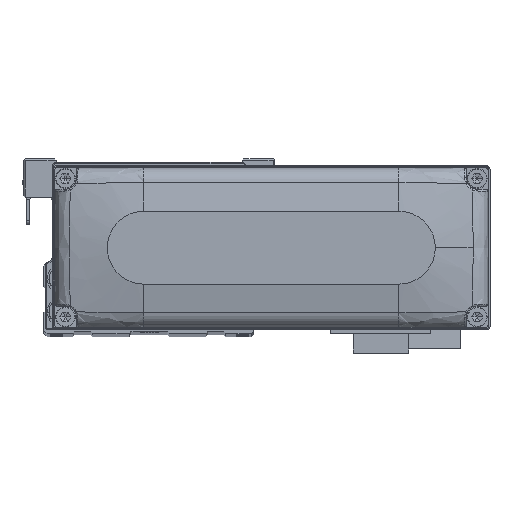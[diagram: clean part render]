
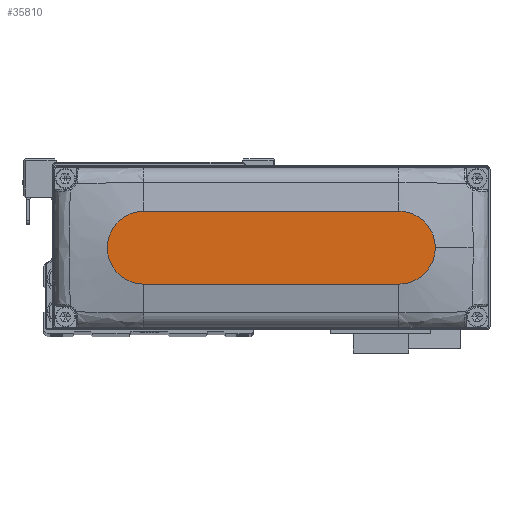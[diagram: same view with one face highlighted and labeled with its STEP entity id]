
A CAD part, top view. The second image highlights one B-rep face of the part: STEP entity #35810.
In plain terms, the highlighted planar face has unit normal (0, 0, 1).
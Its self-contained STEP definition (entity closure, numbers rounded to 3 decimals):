
#755 = CARTESIAN_POINT ( 'NONE',  ( -35., 10., 28. ) ) ;
#1442 = DIRECTION ( 'NONE',  ( 0., 0., 1. ) ) ;
#1767 = DIRECTION ( 'NONE',  ( 1., 0., 0. ) ) ;
#2227 = ORIENTED_EDGE ( 'NONE', *, *, #29480, .T. ) ;
#3011 = EDGE_CURVE ( 'NONE', #3721, #29839, #7327, .T. ) ;
#3721 = VERTEX_POINT ( 'NONE', #22169 ) ;
#4056 = CARTESIAN_POINT ( 'NONE',  ( 35., -10., 28. ) ) ;
#4111 = CARTESIAN_POINT ( 'NONE',  ( -35., 10., 28. ) ) ;
#4479 = VERTEX_POINT ( 'NONE', #755 ) ;
#6055 = DIRECTION ( 'NONE',  ( 0., 0., 1. ) ) ;
#7327 = LINE ( 'NONE', #19166, #34191 ) ;
#8581 = AXIS2_PLACEMENT_3D ( 'NONE', #12912, #24752, #36553 ) ;
#8955 = FACE_OUTER_BOUND ( 'NONE', #37212, .T. ) ;
#10882 = EDGE_CURVE ( 'NONE', #19100, #4479, #30693, .T. ) ;
#10961 = AXIS2_PLACEMENT_3D ( 'NONE', #32606, #6055, #17882 ) ;
#11763 = AXIS2_PLACEMENT_3D ( 'NONE', #16504, #28344, #1767 ) ;
#12912 = CARTESIAN_POINT ( 'NONE',  ( 35., 0., 28. ) ) ;
#13264 = DIRECTION ( 'NONE',  ( 1., 0., 0. ) ) ;
#14922 = ORIENTED_EDGE ( 'NONE', *, *, #10882, .T. ) ;
#15209 = ORIENTED_EDGE ( 'NONE', *, *, #3011, .T. ) ;
#15685 = VECTOR ( 'NONE', #15948, 1000. ) ;
#15948 = DIRECTION ( 'NONE',  ( -1., 0., 0. ) ) ;
#16504 = CARTESIAN_POINT ( 'NONE',  ( -35., 0., 28. ) ) ;
#17055 = AXIS2_PLACEMENT_3D ( 'NONE', #28016, #1442, #13264 ) ;
#17882 = DIRECTION ( 'NONE',  ( 1., 0., 0. ) ) ;
#18822 = CARTESIAN_POINT ( 'NONE',  ( 35., 10., 28. ) ) ;
#19100 = VERTEX_POINT ( 'NONE', #18822 ) ;
#19166 = CARTESIAN_POINT ( 'NONE',  ( -35., -10., 28. ) ) ;
#20802 = PLANE ( 'NONE',  #10961 ) ;
#21278 = EDGE_CURVE ( 'NONE', #35631, #19100, #25316, .T. ) ;
#22169 = CARTESIAN_POINT ( 'NONE',  ( -35., -10., 28. ) ) ;
#24752 = DIRECTION ( 'NONE',  ( 0., 0., 1. ) ) ;
#25316 = CIRCLE ( 'NONE', #8581, 10. ) ;
#25476 = CARTESIAN_POINT ( 'NONE',  ( 45., 0., 28. ) ) ;
#28016 = CARTESIAN_POINT ( 'NONE',  ( 35., 0., 28. ) ) ;
#28344 = DIRECTION ( 'NONE',  ( 0., 0., 1. ) ) ;
#28505 = CIRCLE ( 'NONE', #11763, 10. ) ;
#28853 = ORIENTED_EDGE ( 'NONE', *, *, #33088, .T. ) ;
#29480 = EDGE_CURVE ( 'NONE', #4479, #3721, #28505, .T. ) ;
#29839 = VERTEX_POINT ( 'NONE', #4056 ) ;
#30457 = ORIENTED_EDGE ( 'NONE', *, *, #21278, .T. ) ;
#30693 = LINE ( 'NONE', #4111, #15685 ) ;
#30993 = DIRECTION ( 'NONE',  ( 1., 0., 0. ) ) ;
#32606 = CARTESIAN_POINT ( 'NONE',  ( 0., 0., 28. ) ) ;
#33088 = EDGE_CURVE ( 'NONE', #29839, #35631, #33754, .T. ) ;
#33754 = CIRCLE ( 'NONE', #17055, 10. ) ;
#34191 = VECTOR ( 'NONE', #30993, 1000. ) ;
#35631 = VERTEX_POINT ( 'NONE', #25476 ) ;
#35810 = ADVANCED_FACE ( 'NONE', ( #8955 ), #20802, .T. ) ;
#36553 = DIRECTION ( 'NONE',  ( 1., 0., 0. ) ) ;
#37212 = EDGE_LOOP ( 'NONE', ( #14922, #2227, #15209, #28853, #30457 ) ) ;
